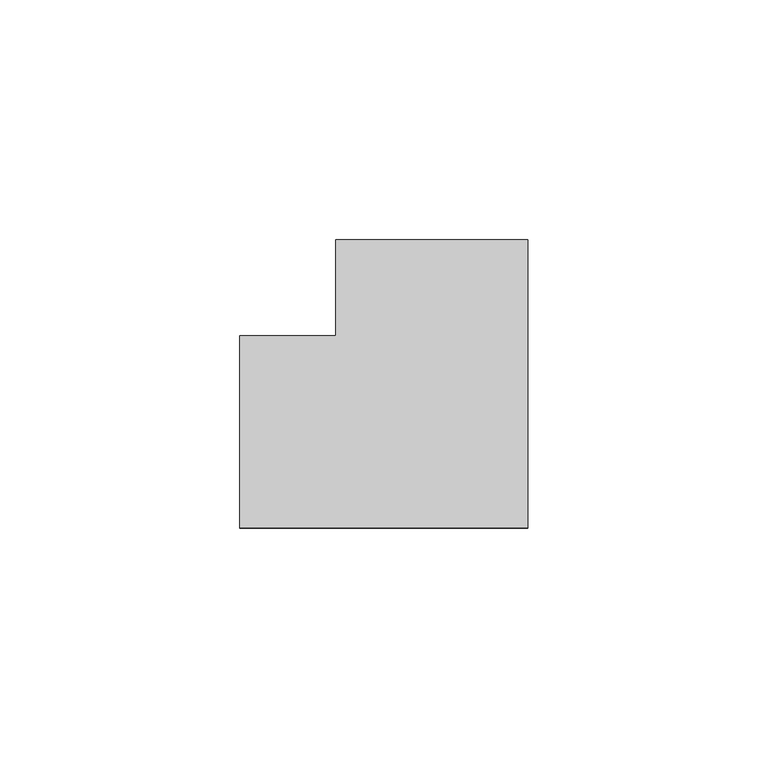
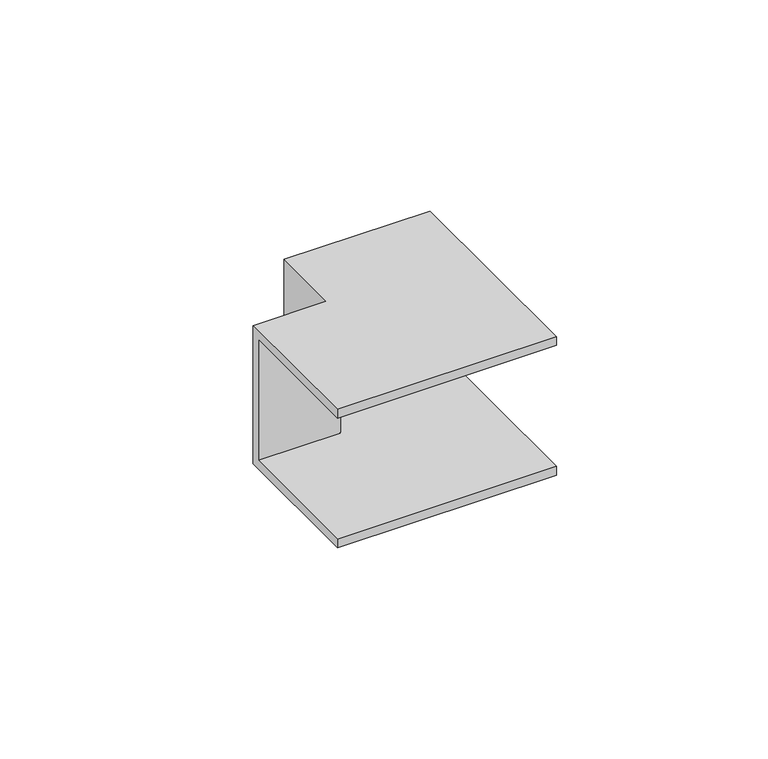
"""IFC4 building model written with IfcOpenShell, lengths in millimetres: cable carrier fitting geometry, КНС_УголВнешний_ILC_DKC : Угол внешний_DKC."""

from ifc_helpers import new_model, si_unit, origin, place, context, project, spatial, faceted_brep, source, transform, mapped, element, save


def cable_carrier_fitting_6d6397ab(model_context):
    return source(origin(), model_context, "Body", "Brep", [
        faceted_brep([(-40.0, 20.0, 20.0), (-40.0, 20.0, -20.0), (-40.0, -20.0, -20.0), (-40.0, -20.0, -17.5), (-40.0, 17.5, -17.5), (-40.0, 17.5, 17.5), (-40.0, -20.0, 17.5), (-40.0, -20.0, 20.0), (-20.0, 40.0, 20.0), (20.0, 40.0, 20.0), (20.0, 40.0, 17.5), (-17.5, 40.0, 17.5), (-17.5, 40.0, -17.5), (20.0, 40.0, -17.5), (20.0, 40.0, -20.0), (-20.0, 40.0, -20.0), (-20.0, 20.0, 20.0), (-20.0, 20.0, -20.0), (20.0, -20.0, -20.0), (20.0, -20.0, -17.5), (-17.5, 17.5, -17.5), (-17.5, 17.5, 17.5), (20.0, -20.0, 17.5), (20.0, -20.0, 20.0)], [[[0, 1, 2, 3, 4, 5, 6, 7]], [[8, 9, 10, 11, 12, 13, 14, 15]], [[1, 0, 16, 17]], [[2, 1, 17, 15, 14, 18]], [[3, 2, 18, 19]], [[4, 3, 19, 13, 12, 20]], [[5, 4, 20, 21]], [[6, 5, 21, 11, 10, 22]], [[7, 6, 22, 23]], [[0, 7, 23, 9, 8, 16]], [[17, 16, 8, 15]], [[19, 18, 14, 13]], [[21, 20, 12, 11]], [[23, 22, 10, 9]]]),
    ])


if __name__ == "__main__":
    model = new_model("IFC4")
    model_context = context("Model", 3, world=origin())
    ifc_project = project(units=[si_unit("LENGTHUNIT", "METRE", prefix="MILLI")], contexts=[model_context])
    site = spatial("IfcSite", under=ifc_project)
    building = spatial("IfcBuilding", under=site)
    placement = place(None, origin())
    cable_carrier_fitting_shape = cable_carrier_fitting_6d6397ab(model_context)
    element("IfcCableCarrierFitting", 1, ObjectType="КНС_УголВнешний_ILC_DKC : Угол внешний_DKC", at=placement, inside=building, context=model_context, shape_type="MappedRepresentation", body=[
        mapped(cable_carrier_fitting_shape, transform((0.0, 0.0, 0.0), x_axis=(1.0, 0.0, 0.0), y_axis=(0.0, 1.0, 0.0), z_axis=(0.0, 0.0, 1.0))),
    ])
    save(model, "model.ifc")
